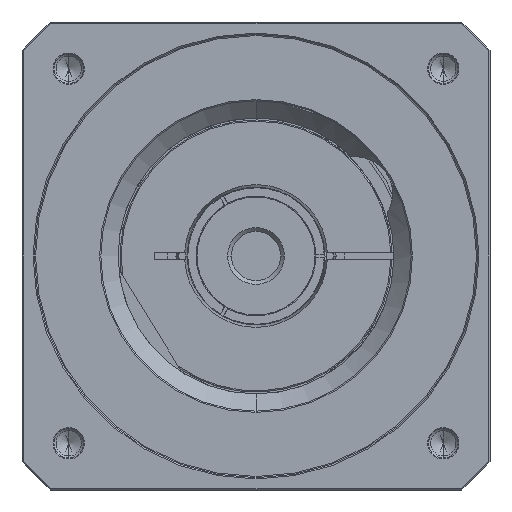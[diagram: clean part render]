
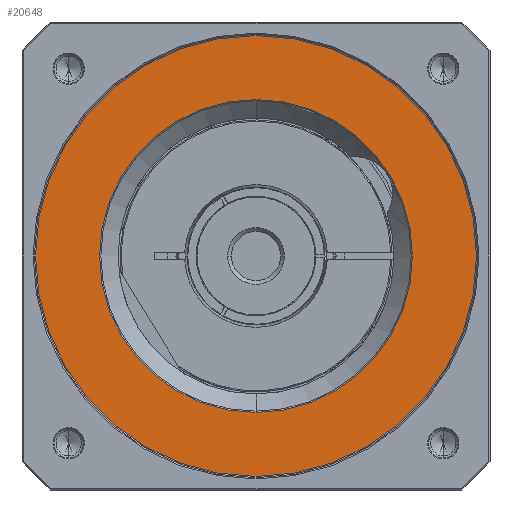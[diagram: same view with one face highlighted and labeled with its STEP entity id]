
A CAD part, left-side view. The second image highlights one B-rep face of the part: STEP entity #20648.
In plain terms, the highlighted planar face has unit normal (-1, 0, 0) as drawn and (0, 0, 1) by its records, which use the part's own axes.
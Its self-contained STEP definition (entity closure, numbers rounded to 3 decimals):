
#19502=CARTESIAN_POINT('',(0.,0.,46.));
#19503=DIRECTION('',(0.,0.,-1.));
#19504=DIRECTION('',(0.,-1.,0.));
#19505=AXIS2_PLACEMENT_3D('',#19502,#19503,#19504);
#19507=CARTESIAN_POINT('',(0.,0.,46.));
#19508=DIRECTION('',(0.,0.,-1.));
#19509=DIRECTION('',(0.,1.,0.));
#19510=AXIS2_PLACEMENT_3D('',#19507,#19508,#19509);
#19512=CARTESIAN_POINT('',(0.,0.,
46.));
#19513=DIRECTION('',(0.,0.,-1.));
#19514=DIRECTION('',(1.,0.,0.));
#19515=AXIS2_PLACEMENT_3D('',#19512,#19513,#19514);
#19517=CARTESIAN_POINT('',(0.,0.,
46.));
#19518=DIRECTION('',(0.,0.,-1.));
#19519=DIRECTION('',(-1.,0.,0.));
#19520=AXIS2_PLACEMENT_3D('',#19517,#19518,#19519);
#20384=CARTESIAN_POINT('',(0.,-89.5,46.));
#20385=CARTESIAN_POINT('',(0.,89.5,46.));
#20386=VERTEX_POINT('',#20384);
#20387=VERTEX_POINT('',#20385);
#20420=CARTESIAN_POINT('',(63.5,0.,46.));
#20421=CARTESIAN_POINT('',(-63.5,0.,
46.));
#20422=VERTEX_POINT('',#20420);
#20423=VERTEX_POINT('',#20421);
#20632=CARTESIAN_POINT('',(0.,0.,46.));
#20633=DIRECTION('',(0.,0.,-1.));
#20634=DIRECTION('',(0.,-1.,0.));
#20635=AXIS2_PLACEMENT_3D('',#20632,#20633,#20634);
#20636=PLANE('',#20635);
#20638=ORIENTED_EDGE('',*,*,#20637,.T.);
#20640=ORIENTED_EDGE('',*,*,#20639,.T.);
#20641=EDGE_LOOP('',(#20638,#20640));
#20642=FACE_OUTER_BOUND('',#20641,.F.);
#20643=ORIENTED_EDGE('',*,*,#20622,.F.);
#20645=ORIENTED_EDGE('',*,*,#20644,.F.);
#20646=EDGE_LOOP('',(#20643,#20645));
#20647=FACE_BOUND('',#20646,.F.);
#20648=ADVANCED_FACE('',(#20642,#20647),#20636,.F.);
#19506=CIRCLE('',#19505,89.5);
#19511=CIRCLE('',#19510,89.5);
#19516=CIRCLE('',#19515,63.5);
#19521=CIRCLE('',#19520,63.5);
#20622=EDGE_CURVE('',#20422,#20423,#19516,.T.);
#20637=EDGE_CURVE('',#20386,#20387,#19506,.T.);
#20639=EDGE_CURVE('',#20387,#20386,#19511,.T.);
#20644=EDGE_CURVE('',#20423,#20422,#19521,.T.);
